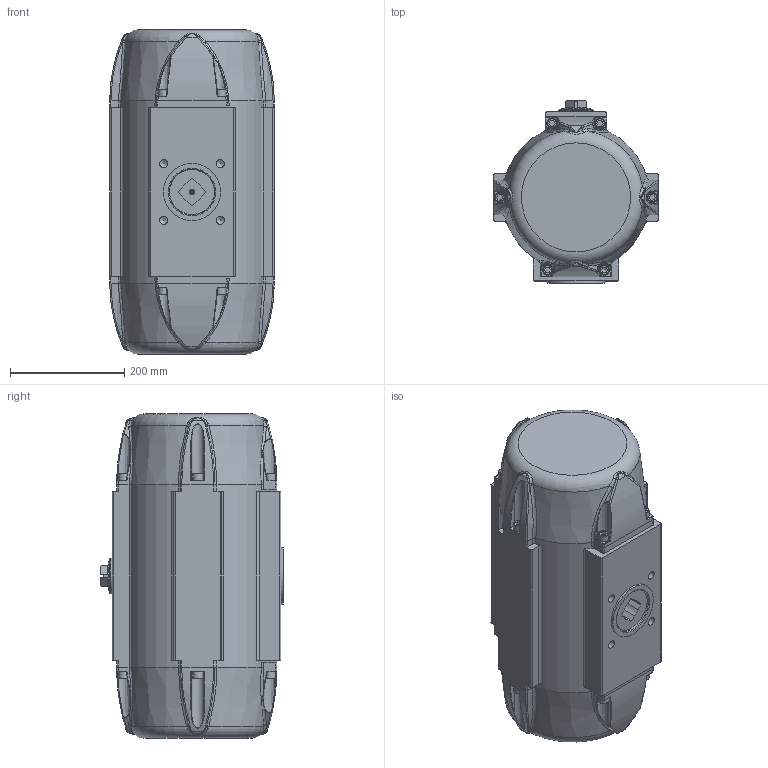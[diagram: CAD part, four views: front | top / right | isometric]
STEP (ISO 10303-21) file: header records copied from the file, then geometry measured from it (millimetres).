
FILE_DESCRIPTION(/* description */ (''),/* implementation_level */ '2;1');
FILE_NAME(/* name */ 'C:\Users\war\Desktop\BR03C_SAF_42.stp',/* time_stamp */ '2021-05-05T10:20:20+02:00',/* author */ ('war'),/* organization */ (''),/* preprocessor_version */ 'ST-DEVELOPER v18.1',/* originating_system */ 'Autodesk Inventor 2021',/* authorisation */ '');
FILE_SCHEMA (('AUTOMOTIVE_DESIGN { 1 0 10303 214 3 1 1 }'));
Products named in the file (1): ENG-051623_Shrinkwrap_1
Bounding box: 288 x 320 x 568.2 mm (x, y, z)
Volume: 11857873.7 mm3; surface area: 1400190.2 mm2
Topology: 2 solids, 2 shells, 1607 faces, 4139 edges, 2559 vertices
Faces by surface type: cylinder 520, bspline 349, plane 346, torus 296, cone 96
Full cylindrical faces by diameter (mm): 2.5 x2, 4.134 x8, 4.917 x1, 8 x2, 8.376 x2, 10.106 x1, 11.445 x2, 14.376 x4, 18 x12, 30 x4, 37 x1, 45 x1, 46 x1, 46.3 x1, 49.8 x3, 50 x2, 50.1 x1, 63 x1, 64 x1, 75 x3, 78 x1, 79.8 x3, 80 x3, 100 x1, 160 x1, 214 x1, 227.3 x1, 236 x1, 239.4 x2, 240 x2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
Entity records: 68663 total; most frequent: CARTESIAN_POINT 30800, ORIENTED_EDGE 8190, DIRECTION 6755, EDGE_CURVE 4095, AXIS2_PLACEMENT_3D 2805, VERTEX_POINT 2559, EDGE_LOOP 1689, STYLED_ITEM 1609
